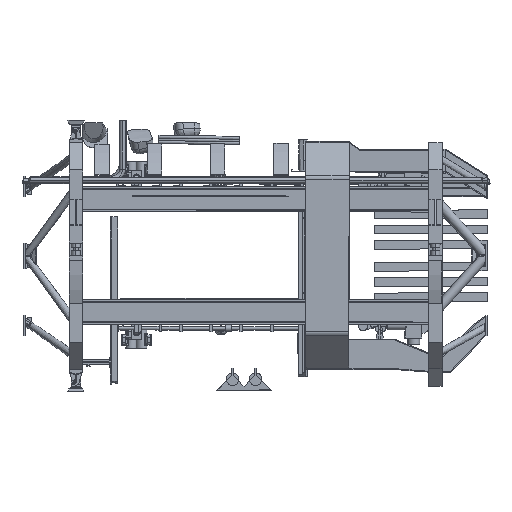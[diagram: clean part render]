
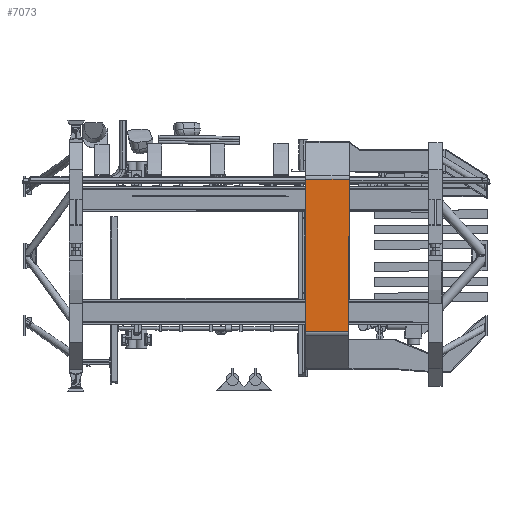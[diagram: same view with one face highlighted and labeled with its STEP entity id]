
A CAD part, front view. The second image highlights one B-rep face of the part: STEP entity #7073.
In plain terms, the highlighted planar face has unit normal (0, -1, 0).
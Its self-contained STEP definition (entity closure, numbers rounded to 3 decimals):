
#7073=ADVANCED_FACE('',(#14129),#10500,.T.);
#10500=PLANE('',#83461);
#14129=FACE_OUTER_BOUND('',#18590,.T.);
#18590=EDGE_LOOP('',(#48095,#48096,#48097,#48098));
#24359=LINE('',#162646,#31718);
#24377=LINE('',#162715,#31736);
#24381=LINE('',#162731,#31740);
#24382=LINE('',#162732,#31741);
#31718=VECTOR('',#95890,1.);
#31736=VECTOR('',#95942,1.);
#31740=VECTOR('',#95956,1.);
#31741=VECTOR('',#95957,1.);
#48095=ORIENTED_EDGE('',*,*,#72727,.T.);
#48096=ORIENTED_EDGE('',*,*,#72685,.T.);
#48097=ORIENTED_EDGE('',*,*,#72728,.T.);
#48098=ORIENTED_EDGE('',*,*,#72719,.F.);
#62871=VERTEX_POINT('',#162645);
#62872=VERTEX_POINT('',#162647);
#62905=VERTEX_POINT('',#162714);
#62906=VERTEX_POINT('',#162716);
#72685=EDGE_CURVE('',#62872,#62871,#24359,.T.);
#72719=EDGE_CURVE('',#62905,#62906,#24377,.T.);
#72727=EDGE_CURVE('',#62905,#62872,#24381,.T.);
#72728=EDGE_CURVE('',#62871,#62906,#24382,.T.);
#83461=AXIS2_PLACEMENT_3D('',#162733,#95958,#95959);
#95890=DIRECTION('',(0.,0.,-1.));
#95942=DIRECTION('',(0.,0.,-1.));
#95956=DIRECTION('',(-1.,0.,0.));
#95957=DIRECTION('',(1.,0.,0.));
#95958=DIRECTION('',(0.,-1.,0.));
#95959=DIRECTION('',(0.,0.,-1.));
#162645=CARTESIAN_POINT('',(227.174,-123.106,-91.093));
#162646=CARTESIAN_POINT('',(227.213,-123.106,-7.453));
#162647=CARTESIAN_POINT('',(227.258,-123.107,89.936));
#162714=CARTESIAN_POINT('',(278.258,-123.114,89.913));
#162715=CARTESIAN_POINT('',(278.216,-123.114,-0.602));
#162716=CARTESIAN_POINT('',(278.174,-123.113,-91.117));
#162731=CARTESIAN_POINT('',(262.258,-123.112,89.92));
#162732=CARTESIAN_POINT('',(278.174,-123.113,-91.117));
#162733=CARTESIAN_POINT('',(262.17,-123.111,-99.595));
